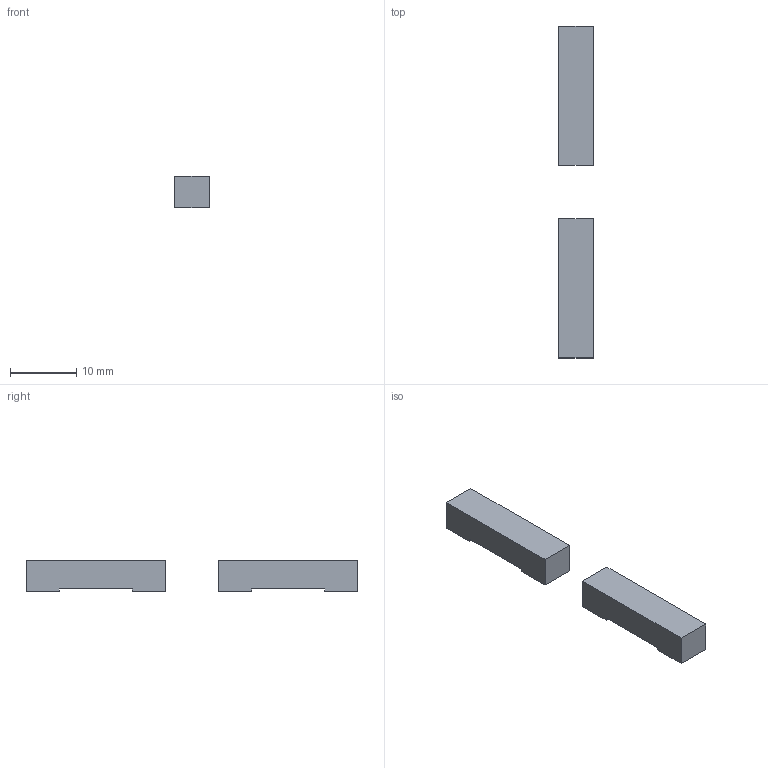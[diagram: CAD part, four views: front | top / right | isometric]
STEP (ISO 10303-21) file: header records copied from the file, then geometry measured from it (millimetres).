
FILE_DESCRIPTION(('Open CASCADE Model'),'2;1');
FILE_NAME('Open CASCADE Shape Model','2026-09-15T13:49:33',('Author'),( 'Open CASCADE'),'Open CASCADE STEP processor 7.7','Open CASCADE 7.7' ,'Unknown');
FILE_SCHEMA(('AUTOMOTIVE_DESIGN { 1 0 10303 214 1 1 1 1 }'));
Length unit declared in the file: millimetre
Products named in the file (3): ASSEMBLY; SOLID
Assembly tree (2 placements, depth 2):
  ASSEMBLY
    SOLID
    SOLID
Bounding box: 5.2 x 50 x 4.7 mm (x, y, z)
Volume: 980.7 mm3; surface area: 920.1 mm2
Topology: 2 solids, 2 shells, 20 faces, 48 edges, 32 vertices
Faces by surface type: plane 20
Entity records: 1232 total; most frequent: CARTESIAN_POINT 207, DIRECTION 182, LINE 136, VECTOR 136, ORIENTED_EDGE 96, PCURVE 96, DEFINITIONAL_REPRESENTATION 96, EDGE_CURVE 48
